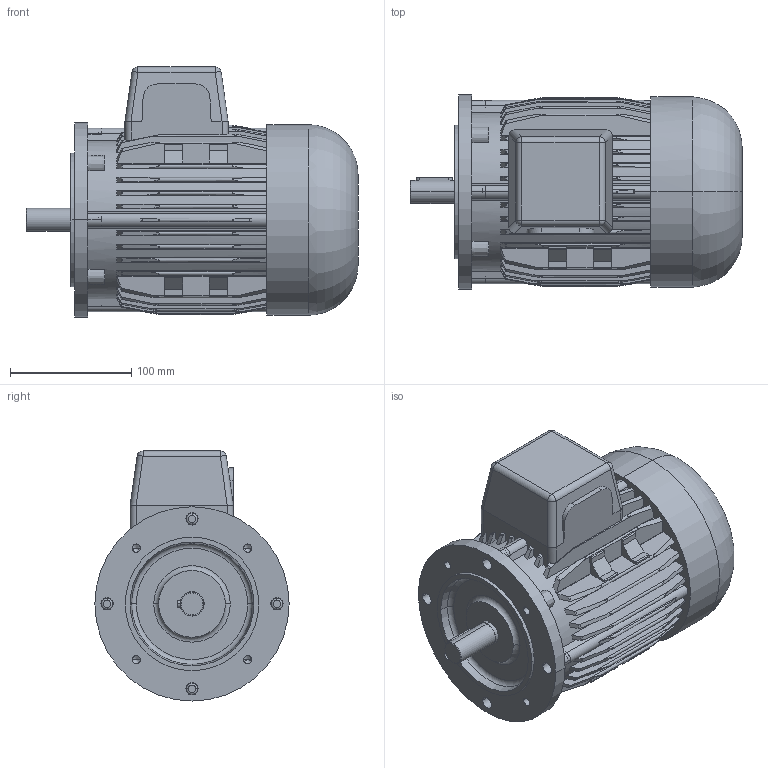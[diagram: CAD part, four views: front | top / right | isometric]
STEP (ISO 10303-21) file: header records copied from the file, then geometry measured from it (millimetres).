
FILE_DESCRIPTION(('OneSpaceDesigner STEP Export'),'2;1');
FILE_NAME('OD8_B14_FT130.stp','2008-04-24T13:29:13',(''),(''),'OneSpace Designer STEP processor (Jan. 2003) for AP214(CD)(Solid Model)','OneSpace Designer 12.01D 09-Jul-2004 (C) CoCreate Software GmbH','');
FILE_SCHEMA(('AUTOMOTIVE_DESIGN_CC2 {1 2 10303 214 -1 1 5 1}'));
Products named in the file (2): OD8_B14_FT130
Assembly tree (1 placements, depth 2):
  OD8_B14_FT130
    OD8_B14_FT130
Bounding box: 273.5 x 160 x 206 mm (x, y, z)
Volume: 4113657.1 mm3; surface area: 257846.9 mm2
Topology: 1 solids, 1 shells, 530 faces, 1492 edges, 978 vertices
Faces by surface type: plane 193, cylinder 148, cone 135, torus 46, sphere 4, extrusion 4
Entity records: 41459 total; most frequent: CARTESIAN_POINT 29020, ORIENTED_EDGE 2960, DIRECTION 1932, EDGE_CURVE 1480, VERTEX_POINT 978, AXIS2_PLACEMENT_3D 683, VECTOR 566, LINE 562
